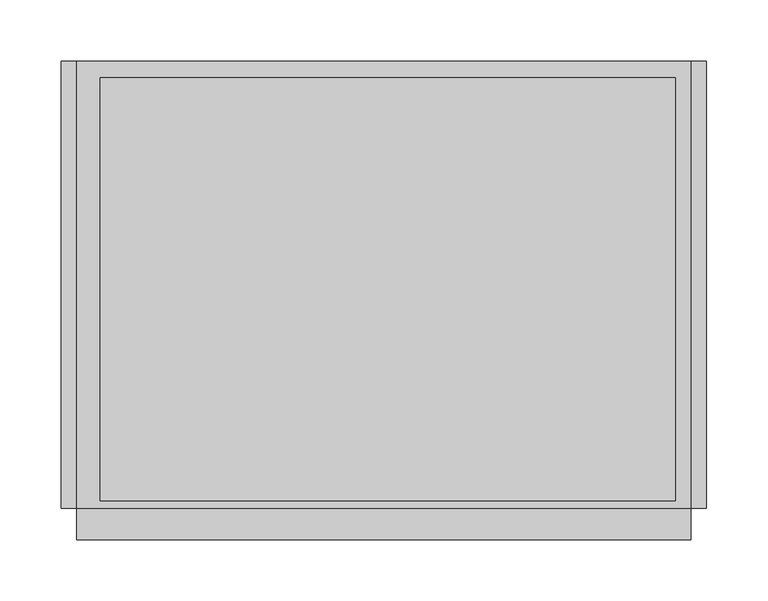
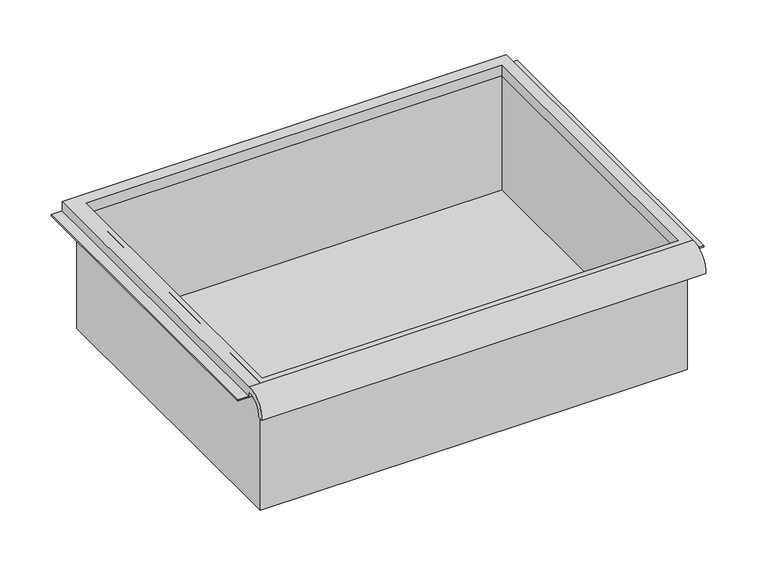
"""IFC4 building model written with IfcOpenShell, lengths in millimetres: furniture geometry."""

from ifc_helpers import new_model, si_unit, frame, origin, place, context, project, spatial, polyline, circle_curve, faceted_brep, source, transform, mapped, element, save
from ifc_brep_helpers import plane_surface, cylinder_surface, revolved_surface, advanced_brep


def furniture_e8bd7afb(model_context):
    return source(origin(), model_context, "Body", "SolidModel", [
        advanced_brep(
        [(263.7474999, -195.297482, 1542.2510272), (263.7474999, -188.9125, 1542.2510272), (263.7474999, -169.8625, 1560.5125004), (263.7474999, -169.8625, 1554.1625), (263.7474999, 195.2625, 1554.1625), (263.7474999, 195.2625, 1566.8625004), (263.7474999, -169.8625, 1566.8625004), (-237.9025001, -195.297482, 1542.2510272), (-237.9025001, -169.8625, 1566.8625004), (-237.9025001, 195.2625, 1566.8625004), (-237.9025001, 195.2625, 1554.1625), (-237.9025001, -169.8625, 1554.1625), (-237.9025001, -169.8625, 1560.5125004), (-237.9025001, -188.9125, 1542.2510272), (251.0474878, 181.9275, 1554.1625), (-218.8095642, 181.9275, 1554.1625), (-218.8095642, -163.5125, 1554.1625), (251.0474878, -163.5125, 1554.1625), (-218.8095642, 181.9275, 1566.8625004), (251.0474878, 181.9275, 1566.8625004), (251.0474878, -163.5125, 1566.8625004), (-218.8095642, -163.5125, 1566.8625004)],
        [
            (0, 1),
            (1, 2, circle_curve(frame((263.7474999, -172.3404634, 1544.0304376), z_axis=(-1.0, 0.0, 0.0), x_axis=(0.0, 1.0, 0.0)), 16.6672942)),
            (2, 3),
            (3, 4),
            (4, 5),
            (5, 6),
            (6, 0, circle_curve(frame((263.7474999, -172.4601678, 1544.0983276), z_axis=(1.0, 0.0, 0.0), x_axis=(0.0, 1.0, 0.0)), 22.9119061)),
            (7, 8, circle_curve(frame((-237.9025001, -172.4601678, 1544.0983276), z_axis=(-1.0, 0.0, 0.0), x_axis=(0.0, 1.0, 0.0)), 22.9119061)),
            (8, 9),
            (9, 10),
            (10, 11),
            (11, 12),
            (12, 13, circle_curve(frame((-237.9025001, -172.3404634, 1544.0304376), z_axis=(1.0, 0.0, 0.0), x_axis=(0.0, 1.0, 0.0)), 16.6672942)),
            (13, 7),
            (0, 7),
            (13, 1),
            (12, 2),
            (11, 3),
            (10, 4),
            (14, 15),
            (15, 16),
            (16, 17),
            (17, 14),
            (9, 5),
            (8, 6),
            (18, 19),
            (19, 20),
            (20, 21),
            (21, 18),
            (14, 19),
            (18, 15),
            (21, 16),
            (20, 17),
        ],
        [
            plane_surface(frame((263.7474999, -195.297482, 1542.2510272), z_axis=(1.0, 0.0, 0.0), x_axis=(0.0, 1.0, 0.0))),
            plane_surface(frame((-237.9025001, -195.297482, 1542.2510272), z_axis=(-1.0, 0.0, 0.0), x_axis=(0.0, -1.0, 0.0))),
            plane_surface(frame((263.7474999, -195.297482, 1542.2510272), z_axis=(0.0, 0.0, -1.0), x_axis=(-1.0, 0.0, 0.0))),
            revolved_surface(polyline([(-237.9025001, -155.67316920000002, 1544.0304376), (263.7474999, -155.67316920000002, 1544.0304376)]), (-237.9025001, -172.3404634, 1544.0304376), (-1.0, 0.0, 0.0)),
            plane_surface(frame((263.7474999, -169.8625, 1560.5125004), z_axis=(0.0, -1.0, 0.0), x_axis=(-1.0, 0.0, 0.0))),
            plane_surface(frame((263.7474999, -169.8625, 1554.1625), z_axis=(0.0, 0.0, -1.0), x_axis=(-1.0, 0.0, 0.0))),
            plane_surface(frame((263.7474999, 195.2625, 1554.1625), z_axis=(0.0, 1.0, 0.0), x_axis=(-1.0, 0.0, 0.0))),
            plane_surface(frame((263.7474999, 195.2625, 1566.8625004), z_axis=(0.0, 0.0, 1.0), x_axis=(-1.0, 0.0, 0.0))),
            cylinder_surface(frame((-237.9025001, -172.4601678, 1544.0983276), z_axis=(1.0, 0.0, 0.0), x_axis=(0.0, 1.0, 0.0)), 22.9119061),
            plane_surface(frame((251.0474878, 181.9275, 1566.8625004), z_axis=(0.0, -1.0, 0.0), x_axis=(0.0, 0.0, -1.0))),
            plane_surface(frame((-218.8095642, 181.9275, 1566.8625004), z_axis=(1.0, 0.0, 0.0), x_axis=(0.0, 0.0, -1.0))),
            plane_surface(frame((-218.8095642, -163.5125, 1566.8625004), z_axis=(0.0, 1.0, 0.0), x_axis=(0.0, 0.0, -1.0))),
            plane_surface(frame((251.0474878, -163.5125, 1566.8625004), z_axis=(-1.0, 0.0, 0.0), x_axis=(0.0, 0.0, -1.0))),
        ],
        [
            (0, [[1, 2, 3, 4, 5, 6, 7]]),
            (1, [[8, 9, 10, 11, 12, 13, 14]]),
            (2, [[-1, 15, -14, 16]]),
            (3, [[-2, -16, -13, 17]]),
            (4, [[-3, -17, -12, 18]]),
            (5, [[-4, -18, -11, 19], [20, 21, 22, 23]]),
            (6, [[-5, -19, -10, 24]]),
            (7, [[-6, -24, -9, 25], [26, 27, 28, 29]]),
            (8, [[-7, -25, -8, -15]]),
            (9, [[30, -26, 31, -20]]),
            (10, [[-31, -29, 32, -21]]),
            (11, [[-32, -28, 33, -22]]),
            (12, [[-30, -23, -33, -27]]),
        ],
    ),
        faceted_brep([(-225.2025001, -169.8625, 1414.4625004), (257.3974878, -169.8625, 1414.4625004), (257.3974878, -169.8625, 1566.8625004), (-225.2025001, -169.8625, 1566.8625004), (-225.2025001, 188.9125, 1414.4625004), (-225.2025001, 188.9125, 1566.8625004), (257.3974878, 188.9125, 1566.8625004), (257.3974878, 188.9125, 1414.4625004), (-218.8095642, 181.9275, 1566.8625004), (251.0474878, 181.9275, 1566.8625004), (251.0474878, -163.5125, 1566.8625004), (-218.8095642, -163.5125, 1566.8625004), (251.0474878, 181.9275, 1417.6375004), (-218.8095642, 181.9275, 1417.6375004), (-218.8095642, -163.5125, 1417.6375004), (251.0474878, -163.5125, 1417.6375004)], [[[0, 1, 2, 3]], [[4, 5, 6, 7]], [[1, 0, 4, 7]], [[2, 1, 7, 6]], [[3, 2, 6, 5], [8, 9, 10, 11]], [[0, 3, 5, 4]], [[12, 13, 14, 15]], [[13, 12, 9, 8]], [[14, 13, 8, 11]], [[15, 14, 11, 10]], [[12, 15, 10, 9]]]),
        faceted_brep([(-250.6025001, 195.2625, 1554.1625), (-250.6025001, 195.2625, 1555.75), (-231.5525001, 195.2625, 1555.75), (-231.5525001, 195.2625, 1554.1625), (-250.6025001, -169.8625, 1554.1625), (-231.5525001, -169.8625, 1554.1625), (-231.5525001, -169.8625, 1555.75), (-250.6025001, -169.8625, 1555.75)], [[[0, 1, 2, 3]], [[4, 5, 6, 7]], [[1, 0, 4, 7]], [[2, 1, 7, 6]], [[3, 2, 6, 5]], [[0, 3, 5, 4]]]),
        faceted_brep([(276.4474999, 195.2625, 1554.1625), (263.7474999, 195.2625, 1554.1625), (263.7474999, 195.2625, 1555.75), (276.4474999, 195.2625, 1555.75), (276.4474999, -169.8625, 1554.1625), (276.4474999, -169.8625, 1555.75), (263.7474999, -169.8625, 1555.75), (263.7474999, -169.8625, 1554.1625)], [[[0, 1, 2, 3]], [[4, 5, 6, 7]], [[1, 0, 4, 7]], [[2, 1, 7, 6]], [[3, 2, 6, 5]], [[0, 3, 5, 4]]]),
    ])


if __name__ == "__main__":
    model = new_model("IFC4")
    model_context = context("Model", 3, world=origin())
    ifc_project = project(units=[si_unit("LENGTHUNIT", "METRE", prefix="MILLI")], contexts=[model_context])
    site = spatial("IfcSite", under=ifc_project)
    building = spatial("IfcBuilding", under=site)
    placement = place(None, origin())
    furniture_shape = furniture_e8bd7afb(model_context)
    element("IfcFurniture", 1, ObjectType="HermanMiller_Carts_CT501_Drawer : 6\"H x 15\"D x 20\"W", at=placement, inside=building, context=model_context, shape_type="MappedRepresentation", body=[
        mapped(furniture_shape, transform((0.0, 0.0, 0.0), x_axis=(1.0, 0.0, 0.0), y_axis=(0.0, 1.0, 0.0), z_axis=(0.0, 0.0, 1.0))),
    ])
    save(model, "model.ifc")
